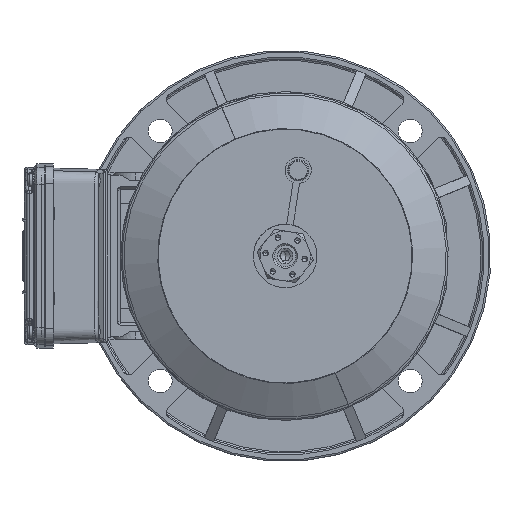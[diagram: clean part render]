
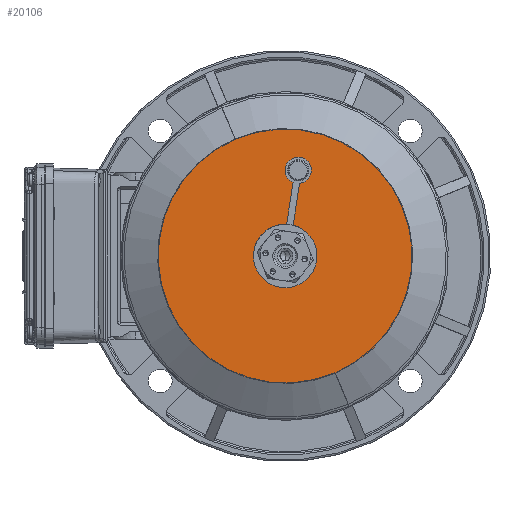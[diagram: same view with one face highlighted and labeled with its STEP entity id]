
A CAD part, left-side view. The second image highlights one B-rep face of the part: STEP entity #20106.
In plain terms, the highlighted planar face has unit normal (-1, 0, 0) as drawn and (0, -1, 0) by its records, which use the part's own axes.
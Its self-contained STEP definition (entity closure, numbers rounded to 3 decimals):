
#1055 = DIRECTION ( 'NONE',  ( 0., 0., 1. ) ) ;
#15283 = ORIENTED_EDGE ( 'NONE', *, *, #98700, .F. ) ;
#15554 = DIRECTION ( 'NONE',  ( 0., 1., 0. ) ) ;
#17639 = FACE_BOUND ( 'NONE', #40504, .T. ) ;
#18626 = CIRCLE ( 'NONE', #66410, 13.5 ) ;
#20106 = ADVANCED_FACE ( 'NONE', ( #17639, #106958 ), #106704, .T. ) ;
#22456 = AXIS2_PLACEMENT_3D ( 'NONE', #46981, #109243, #55900 ) ;
#22944 = AXIS2_PLACEMENT_3D ( 'NONE', #69081, #15554, #78086 ) ;
#26795 = CARTESIAN_POINT ( 'NONE',  ( -13.5, 0., 0. ) ) ;
#31589 = ORIENTED_EDGE ( 'NONE', *, *, #96166, .T. ) ;
#33239 = CARTESIAN_POINT ( 'NONE',  ( 0., 0., 0. ) ) ;
#35958 = CARTESIAN_POINT ( 'NONE',  ( 0., 0., -13.5 ) ) ;
#36824 = CARTESIAN_POINT ( 'NONE',  ( 0., 0., 77.5 ) ) ;
#37244 = CARTESIAN_POINT ( 'NONE',  ( 0., 0., -77.5 ) ) ;
#38187 = VERTEX_POINT ( 'NONE', #37244 ) ;
#40419 = CIRCLE ( 'NONE', #103070, 13.5 ) ;
#40504 = EDGE_LOOP ( 'NONE', ( #31589, #96378 ) ) ;
#42225 = DIRECTION ( 'NONE',  ( 0., 0., 1. ) ) ;
#42871 = VERTEX_POINT ( 'NONE', #35958 ) ;
#44785 = DIRECTION ( 'NONE',  ( 0., -1., 0. ) ) ;
#46981 = CARTESIAN_POINT ( 'NONE',  ( 0., 0., 0. ) ) ;
#54600 = DIRECTION ( 'NONE',  ( 0., 1., 0. ) ) ;
#55900 = DIRECTION ( 'NONE',  ( 0., 0., 1. ) ) ;
#62636 = ORIENTED_EDGE ( 'NONE', *, *, #85745, .F. ) ;
#63021 = CIRCLE ( 'NONE', #22456, 77.5 ) ;
#66410 = AXIS2_PLACEMENT_3D ( 'NONE', #107943, #54600, #1055 ) ;
#69081 = CARTESIAN_POINT ( 'NONE',  ( 0., 0., 0. ) ) ;
#78086 = DIRECTION ( 'NONE',  ( 0., 0., 1. ) ) ;
#85745 = EDGE_CURVE ( 'NONE', #105925, #38187, #91169, .T. ) ;
#88037 = EDGE_CURVE ( 'NONE', #42871, #97670, #40419, .T. ) ;
#91169 = CIRCLE ( 'NONE', #22944, 77.5 ) ;
#95672 = DIRECTION ( 'NONE',  ( 0., 1., 0. ) ) ;
#95706 = AXIS2_PLACEMENT_3D ( 'NONE', #26795, #44785, #107091 ) ;
#96166 = EDGE_CURVE ( 'NONE', #97670, #42871, #18626, .T. ) ;
#96378 = ORIENTED_EDGE ( 'NONE', *, *, #88037, .T. ) ;
#97670 = VERTEX_POINT ( 'NONE', #99906 ) ;
#98700 = EDGE_CURVE ( 'NONE', #38187, #105925, #63021, .T. ) ;
#99906 = CARTESIAN_POINT ( 'NONE',  ( 0., 0., 13.5 ) ) ;
#103070 = AXIS2_PLACEMENT_3D ( 'NONE', #33239, #95672, #42225 ) ;
#105925 = VERTEX_POINT ( 'NONE', #36824 ) ;
#106704 = PLANE ( 'NONE',  #95706 ) ;
#106958 = FACE_OUTER_BOUND ( 'NONE', #107811, .T. ) ;
#107091 = DIRECTION ( 'NONE',  ( 0., 0., -1. ) ) ;
#107811 = EDGE_LOOP ( 'NONE', ( #62636, #15283 ) ) ;
#107943 = CARTESIAN_POINT ( 'NONE',  ( 0., 0., 0. ) ) ;
#109243 = DIRECTION ( 'NONE',  ( 0., 1., 0. ) ) ;
